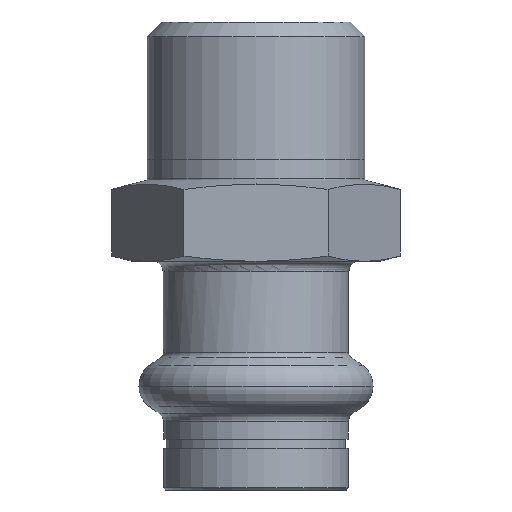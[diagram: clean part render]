
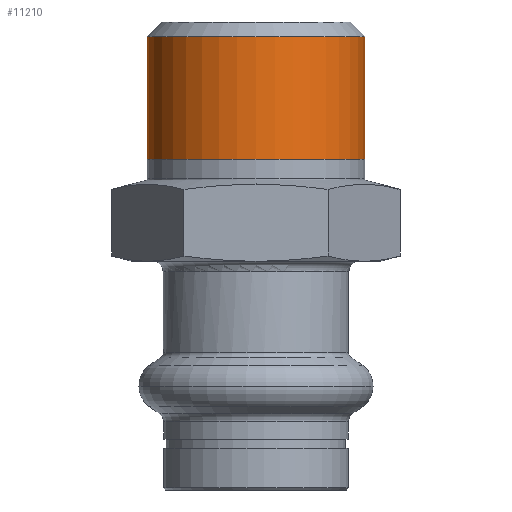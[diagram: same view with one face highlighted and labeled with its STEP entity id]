
A CAD part, front view. The second image highlights one B-rep face of the part: STEP entity #11210.
In plain terms, the highlighted cylindrical face has radius 10.477 mm (diameter 20.955 mm), a partial arc.
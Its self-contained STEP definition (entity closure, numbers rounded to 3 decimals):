
#6220=CARTESIAN_POINT('',(37.681,50.704,7.8));
#6230=DIRECTION('',(0.,0.,1.));
#6240=DIRECTION('',(1.,0.,0.));
#6250=AXIS2_PLACEMENT_3D('',#6220,#6230,#6240);
#6260=CYLINDRICAL_SURFACE('',#6250,10.478);
#8470=CARTESIAN_POINT('',(48.158,50.704,21.6));
#8480=VERTEX_POINT('',#8470);
#8510=CARTESIAN_POINT('',(37.681,50.704,21.6));
#8520=DIRECTION('',(0.,0.,1.));
#8530=DIRECTION('',(1.,0.,0.));
#8540=AXIS2_PLACEMENT_3D('',#8510,#8520,#8530);
#8550=CIRCLE('',#8540,10.478);
#8560=CARTESIAN_POINT('',(27.203,50.704,21.6));
#8570=VERTEX_POINT('',#8560);
#8580=EDGE_CURVE('',#8570,#8480,#8550,.T.);
#10820=CARTESIAN_POINT('',(27.203,50.704,9.8));
#10830=VERTEX_POINT('',#10820);
#10860=CARTESIAN_POINT('',(37.681,50.704,9.8));
#10870=DIRECTION('',(0.,0.,1.));
#10880=DIRECTION('',(1.,0.,0.));
#10890=AXIS2_PLACEMENT_3D('',#10860,#10870,#10880);
#10900=CIRCLE('',#10890,10.478);
#10910=CARTESIAN_POINT('',(48.158,50.704,9.8));
#10920=VERTEX_POINT('',#10910);
#10930=EDGE_CURVE('',#10830,#10920,#10900,.T.);
#11050=CARTESIAN_POINT('',(27.203,50.704,7.8));
#11060=DIRECTION('',(0.,0.,1.));
#11070=VECTOR('',#11060,1.);
#11080=LINE('',#11050,#11070);
#11090=EDGE_CURVE('',#10830,#8570,#11080,.T.);
#11100=ORIENTED_EDGE('',*,*,#11090,.F.);
#11110=ORIENTED_EDGE('',*,*,#8580,.F.);
#11120=CARTESIAN_POINT('',(48.158,50.704,7.8));
#11130=DIRECTION('',(0.,0.,1.));
#11140=VECTOR('',#11130,1.);
#11150=LINE('',#11120,#11140);
#11160=EDGE_CURVE('',#10920,#8480,#11150,.T.);
#11170=ORIENTED_EDGE('',*,*,#11160,.T.);
#11180=ORIENTED_EDGE('',*,*,#10930,.T.);
#11190=EDGE_LOOP('',(#11180,#11170,#11110,#11100));
#11200=FACE_OUTER_BOUND('',#11190,.T.);
#11210=ADVANCED_FACE('0.825-14_351050',(#11200),#6260,.T.);
